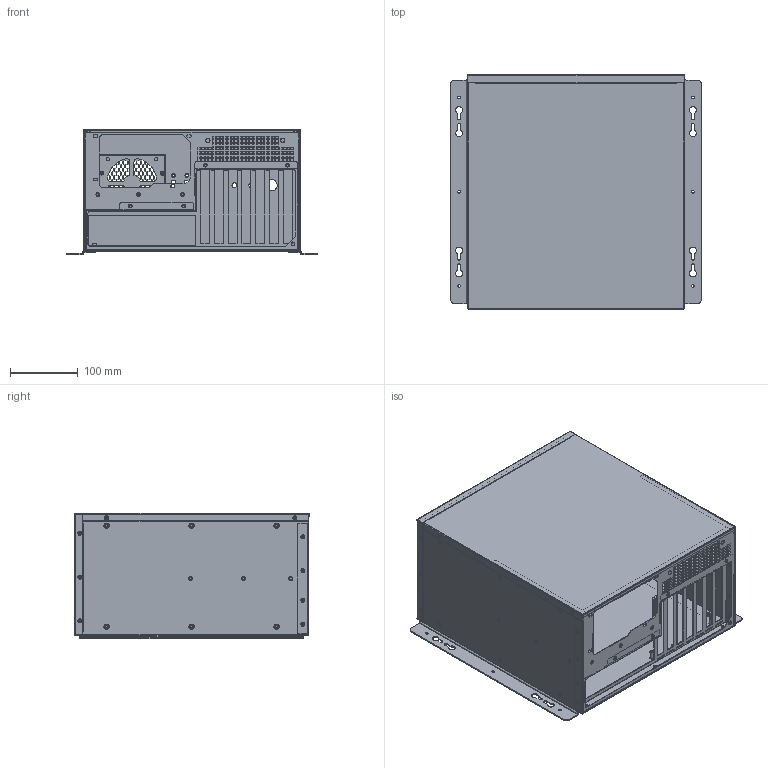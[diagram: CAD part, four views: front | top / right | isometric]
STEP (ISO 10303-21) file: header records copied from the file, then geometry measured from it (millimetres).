
FILE_DESCRIPTION (( 'STEP AP203' ), '1' );
FILE_NAME ('DT-5307族境儂眊.STEP', '2024-07-15T05:04:21', ( '' ), ( '' ), 'SwSTEP 2.0', 'SolidWorks 2016', '' );
FILE_SCHEMA (( 'CONFIG_CONTROL_DESIGN' ));
Length unit declared in the file: millimetre
Products named in the file (8): 族境殤_1; 綴敦_1; 8025瑞圮殤_1; 儂眊ヶ醱啣_1; 醱啣_1; 奻裔_1; DT-5307族境儂眊; 儂眊_1
Assembly tree (8 placements, depth 2):
  DT-5307族境儂眊
    儂眊_1
    儂眊ヶ醱啣_1
    奻裔_1
    綴敦_1
    醱啣_1
    8025瑞圮殤_1
    族境殤_1  x2
Bounding box: 370 x 346.2 x 185 mm (x, y, z)
Volume: 628330 mm3; surface area: 1036272.6 mm2
Topology: 36 solids, 36 shells, 4639 faces, 13182 edges, 8666 vertices
Faces by surface type: plane 2981, cylinder 1310, cone 282, torus 62, bspline 4
Entity records: 153808 total; most frequent: CARTESIAN_POINT 29412, ORIENTED_EDGE 26016, DIRECTION 25036, EDGE_CURVE 13008, LINE 9956, VECTOR 9956, VERTEX_POINT 8564, AXIS2_PLACEMENT_3D 7540
